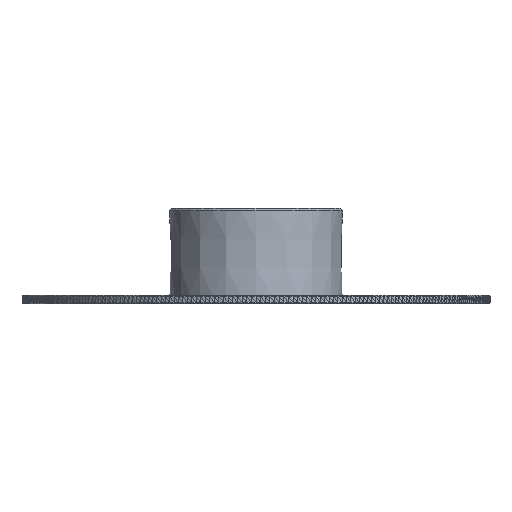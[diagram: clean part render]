
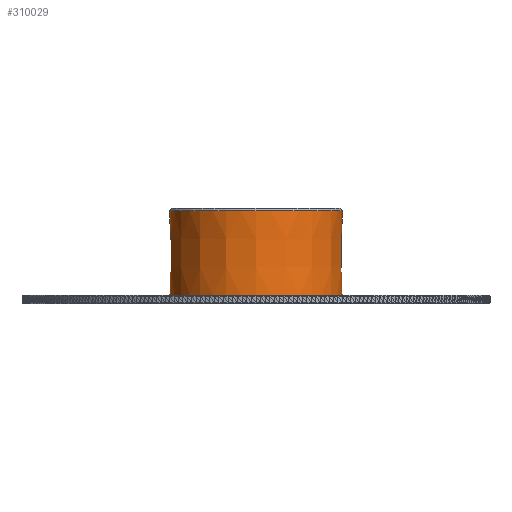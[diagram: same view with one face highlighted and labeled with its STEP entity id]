
A CAD part, front view. The second image highlights one B-rep face of the part: STEP entity #310029.
In plain terms, the highlighted conical face has half-angle 0 degrees and reference radius 37 mm.
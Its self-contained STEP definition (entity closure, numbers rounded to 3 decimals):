
#742=CONICAL_SURFACE('',#331786,37.,0.);
#22256=FACE_OUTER_BOUND('',#43288,.T.);
#43288=EDGE_LOOP('',(#221913,#221914,#221915,#221916));
#64372=CIRCLE('',#331131,37.);
#64468=CIRCLE('',#331787,37.);
#66654=LINE('',#447369,#108993);
#108993=VECTOR('',#357722,37.);
#151096=VERTEX_POINT('',#445473);
#151484=VERTEX_POINT('',#447368);
#174768=EDGE_CURVE('',#151096,#151096,#64372,.T.);
#175715=EDGE_CURVE('',#151096,#151484,#66654,.T.);
#175716=EDGE_CURVE('',#151484,#151484,#64468,.T.);
#221913=ORIENTED_EDGE('',*,*,#174768,.T.);
#221914=ORIENTED_EDGE('',*,*,#175715,.T.);
#221915=ORIENTED_EDGE('',*,*,#175716,.F.);
#221916=ORIENTED_EDGE('',*,*,#175715,.F.);
#310029=ADVANCED_FACE('',(#22256),#742,.T.);
#331131=AXIS2_PLACEMENT_3D('',#445474,#355559,#355560);
#331786=AXIS2_PLACEMENT_3D('',#447367,#357720,#357721);
#331787=AXIS2_PLACEMENT_3D('',#447370,#357723,#357724);
#355559=DIRECTION('center_axis',(0.,0.,-1.));
#355560=DIRECTION('ref_axis',(1.,0.,0.));
#357720=DIRECTION('center_axis',(0.,0.,-1.));
#357721=DIRECTION('ref_axis',(0.,1.,0.));
#357722=DIRECTION('',(0.,0.,-1.));
#357723=DIRECTION('center_axis',(0.,0.,-1.));
#357724=DIRECTION('ref_axis',(1.,0.,0.));
#445473=CARTESIAN_POINT('',(0.,-37.,19.25));
#445474=CARTESIAN_POINT('Origin',(0.,0.,19.25));
#447367=CARTESIAN_POINT('Origin',(0.,0.,1.2));
#447368=CARTESIAN_POINT('',(0.,-37.,-16.85));
#447369=CARTESIAN_POINT('',(0.,-37.,1.2));
#447370=CARTESIAN_POINT('Origin',(0.,0.,-16.85));
